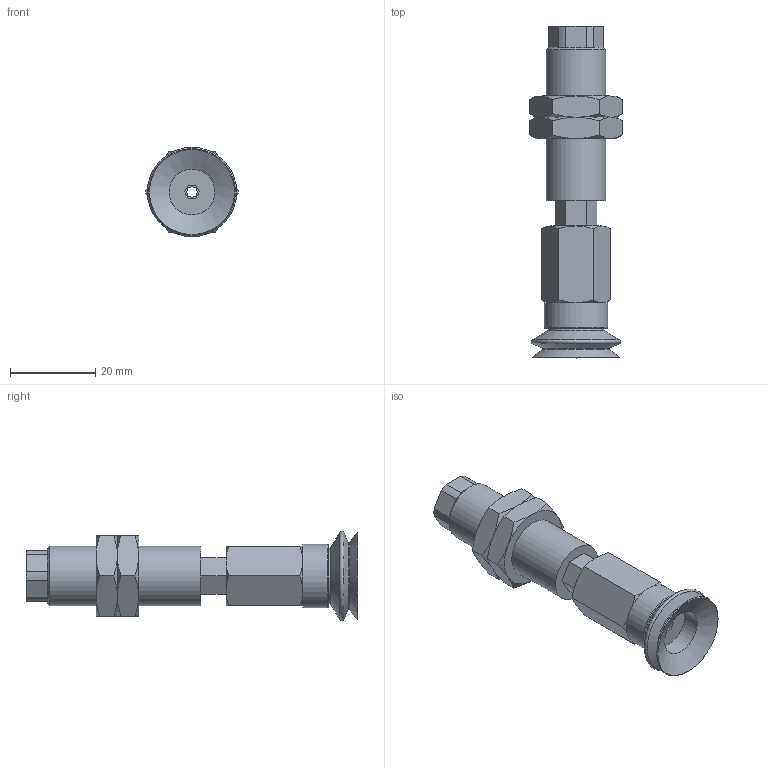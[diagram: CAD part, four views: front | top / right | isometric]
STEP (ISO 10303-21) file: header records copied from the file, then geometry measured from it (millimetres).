
FILE_DESCRIPTION(('STEP AP203'),'1');
FILE_NAME('.stp','2025-08-27T06:55:14',(' '),(' '),'Spatial InterOp 3D',' ',' ');
FILE_SCHEMA(('CONFIG_CONTROL_DESIGN'));
Length unit declared in the file: millimetre
Products named in the file (7): BNABPJTH-20-6-※; ADAPTER; NAPBTH-20-6-MBODY; Adapter-20-NAPJ; NAPJH-20-6-NUT; NAPJTH-20-6-FBODY; BPJG-20-※
Assembly tree (7 placements, depth 2):
  BNABPJTH-20-6-※
    ADAPTER
    NAPBTH-20-6-MBODY
    Adapter-20-NAPJ
    NAPJH-20-6-NUT  x2
    NAPJTH-20-6-FBODY
    BPJG-20-※
Bounding box: 21.94 x 78 x 21 mm (x, y, z)
Volume: 12711.5 mm3; surface area: 10226.6 mm2
Topology: 7 solids, 7 shells, 137 faces, 302 edges, 185 vertices
Faces by surface type: plane 62, cone 49, cylinder 19, torus 7
Full cylindrical faces by diameter (mm): 2.5 x1, 3 x2, 4.134 x2, 4.6 x1, 5 x1, 10.8 x1, 11 x1, 13.188 x2, 14 x1, 15 x1
Entity records: 3524 total; most frequent: CARTESIAN_POINT 824, DIRECTION 490, ORIENTED_EDGE 432, EDGE_CURVE 216, AXIS2_PLACEMENT_3D 200, EDGE_LOOP 162, VERTEX_POINT 150, FACE_OUTER_BOUND 133
